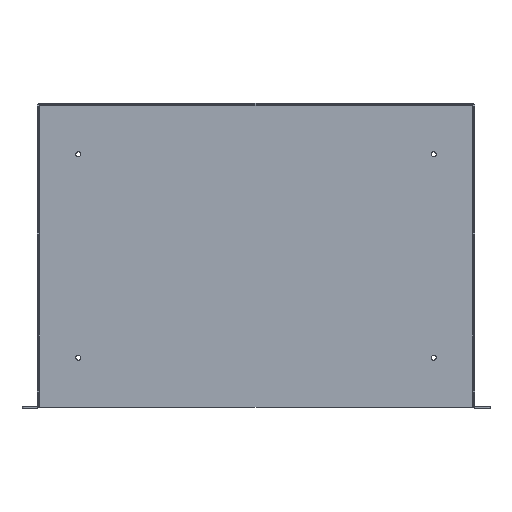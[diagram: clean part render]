
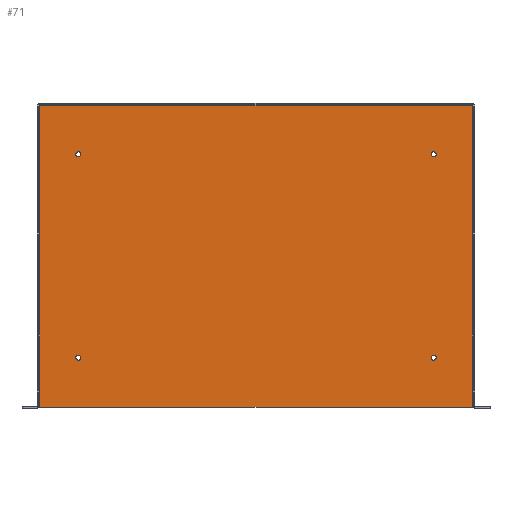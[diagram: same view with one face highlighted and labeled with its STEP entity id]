
A CAD part, top view. The second image highlights one B-rep face of the part: STEP entity #71.
In plain terms, the highlighted planar face has unit normal (0, 0, 1).
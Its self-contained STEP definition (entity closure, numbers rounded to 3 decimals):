
#71 = ADVANCED_FACE( '', ( #205, #206, #207, #208, #209 ), #210, .T. );
#205 = FACE_BOUND( '', #503, .T. );
#206 = FACE_BOUND( '', #504, .T. );
#207 = FACE_BOUND( '', #505, .T. );
#208 = FACE_BOUND( '', #506, .T. );
#209 = FACE_OUTER_BOUND( '', #507, .T. );
#210 = PLANE( '', #508 );
#503 = EDGE_LOOP( '', ( #958 ) );
#504 = EDGE_LOOP( '', ( #959 ) );
#505 = EDGE_LOOP( '', ( #960 ) );
#506 = EDGE_LOOP( '', ( #961 ) );
#507 = EDGE_LOOP( '', ( #962, #963, #964, #965 ) );
#508 = AXIS2_PLACEMENT_3D( '', #966, #967, #968 );
#958 = ORIENTED_EDGE( '', *, *, #1675, .F. );
#959 = ORIENTED_EDGE( '', *, *, #1676, .F. );
#960 = ORIENTED_EDGE( '', *, *, #1677, .F. );
#961 = ORIENTED_EDGE( '', *, *, #1678, .F. );
#962 = ORIENTED_EDGE( '', *, *, #1679, .F. );
#963 = ORIENTED_EDGE( '', *, *, #1640, .T. );
#964 = ORIENTED_EDGE( '', *, *, #1680, .F. );
#965 = ORIENTED_EDGE( '', *, *, #1681, .T. );
#966 = CARTESIAN_POINT( '', ( -273.05, -189.586, 1.829 ) );
#967 = DIRECTION( '', ( 0., 0., 1. ) );
#968 = DIRECTION( '', ( 1., 0., 0. ) );
#1640 = EDGE_CURVE( '', #1964, #1959, #1967, .T. );
#1675 = EDGE_CURVE( '', #2029, #2029, #2030, .T. );
#1676 = EDGE_CURVE( '', #2031, #2031, #2032, .T. );
#1677 = EDGE_CURVE( '', #2033, #2033, #2034, .T. );
#1678 = EDGE_CURVE( '', #2035, #2035, #2036, .T. );
#1679 = EDGE_CURVE( '', #1964, #2037, #2038, .T. );
#1680 = EDGE_CURVE( '', #2039, #1959, #2040, .T. );
#1681 = EDGE_CURVE( '', #2039, #2037, #2041, .T. );
#1959 = VERTEX_POINT( '', #2481 );
#1964 = VERTEX_POINT( '', #2487 );
#1967 = LINE( '', #2503, #2504 );
#2029 = VERTEX_POINT( '', #2622 );
#2030 = CIRCLE( '', #2623, 3.175 );
#2031 = VERTEX_POINT( '', #2624 );
#2032 = CIRCLE( '', #2625, 3.175 );
#2033 = VERTEX_POINT( '', #2626 );
#2034 = CIRCLE( '', #2627, 3.175 );
#2035 = VERTEX_POINT( '', #2628 );
#2036 = CIRCLE( '', #2629, 3.175 );
#2037 = VERTEX_POINT( '', #2630 );
#2038 = LINE( '', #2631, #2632 );
#2039 = VERTEX_POINT( '', #2633 );
#2040 = LINE( '', #2634, #2635 );
#2041 = LINE( '', #2636, #2637 );
#2481 = CARTESIAN_POINT( '', ( -270.307, 186.842, 1.829 ) );
#2487 = CARTESIAN_POINT( '', ( 270.307, 186.842, 1.829 ) );
#2503 = CARTESIAN_POINT( '', ( -270.305, 186.842, 1.829 ) );
#2504 = VECTOR( '', #3172, 1000. );
#2622 = CARTESIAN_POINT( '', ( -218.669, 126.086, 1.829 ) );
#2623 = AXIS2_PLACEMENT_3D( '', #3211, #3212, #3213 );
#2624 = CARTESIAN_POINT( '', ( 225.019, -127.914, 1.829 ) );
#2625 = AXIS2_PLACEMENT_3D( '', #3214, #3215, #3216 );
#2626 = CARTESIAN_POINT( '', ( 225.019, 126.086, 1.829 ) );
#2627 = AXIS2_PLACEMENT_3D( '', #3217, #3218, #3219 );
#2628 = CARTESIAN_POINT( '', ( -218.669, -127.914, 1.829 ) );
#2629 = AXIS2_PLACEMENT_3D( '', #3220, #3221, #3222 );
#2630 = CARTESIAN_POINT( '', ( 270.307, -189.586, 1.829 ) );
#2631 = CARTESIAN_POINT( '', ( 270.307, 189.586, 1.829 ) );
#2632 = VECTOR( '', #3223, 1000. );
#2633 = CARTESIAN_POINT( '', ( -270.307, -189.586, 1.829 ) );
#2634 = CARTESIAN_POINT( '', ( -270.307, -189.586, 1.829 ) );
#2635 = VECTOR( '', #3224, 1000. );
#2636 = CARTESIAN_POINT( '', ( -273.05, -189.586, 1.829 ) );
#2637 = VECTOR( '', #3225, 1000. );
#3172 = DIRECTION( '', ( -1., 0., 0. ) );
#3211 = CARTESIAN_POINT( '', ( -221.844, 126.086, 1.829 ) );
#3212 = DIRECTION( '', ( 0., 0., 1. ) );
#3213 = DIRECTION( '', ( 1., 0., 0. ) );
#3214 = CARTESIAN_POINT( '', ( 221.844, -127.914, 1.829 ) );
#3215 = DIRECTION( '', ( 0., 0., 1. ) );
#3216 = DIRECTION( '', ( 1., 0., 0. ) );
#3217 = CARTESIAN_POINT( '', ( 221.844, 126.086, 1.829 ) );
#3218 = DIRECTION( '', ( 0., 0., 1. ) );
#3219 = DIRECTION( '', ( 1., 0., 0. ) );
#3220 = CARTESIAN_POINT( '', ( -221.844, -127.914, 1.829 ) );
#3221 = DIRECTION( '', ( 0., 0., 1. ) );
#3222 = DIRECTION( '', ( 1., 0., 0. ) );
#3223 = DIRECTION( '', ( 0., -1., 0. ) );
#3224 = DIRECTION( '', ( 0., 1., 0. ) );
#3225 = DIRECTION( '', ( 1., 0., 0. ) );
